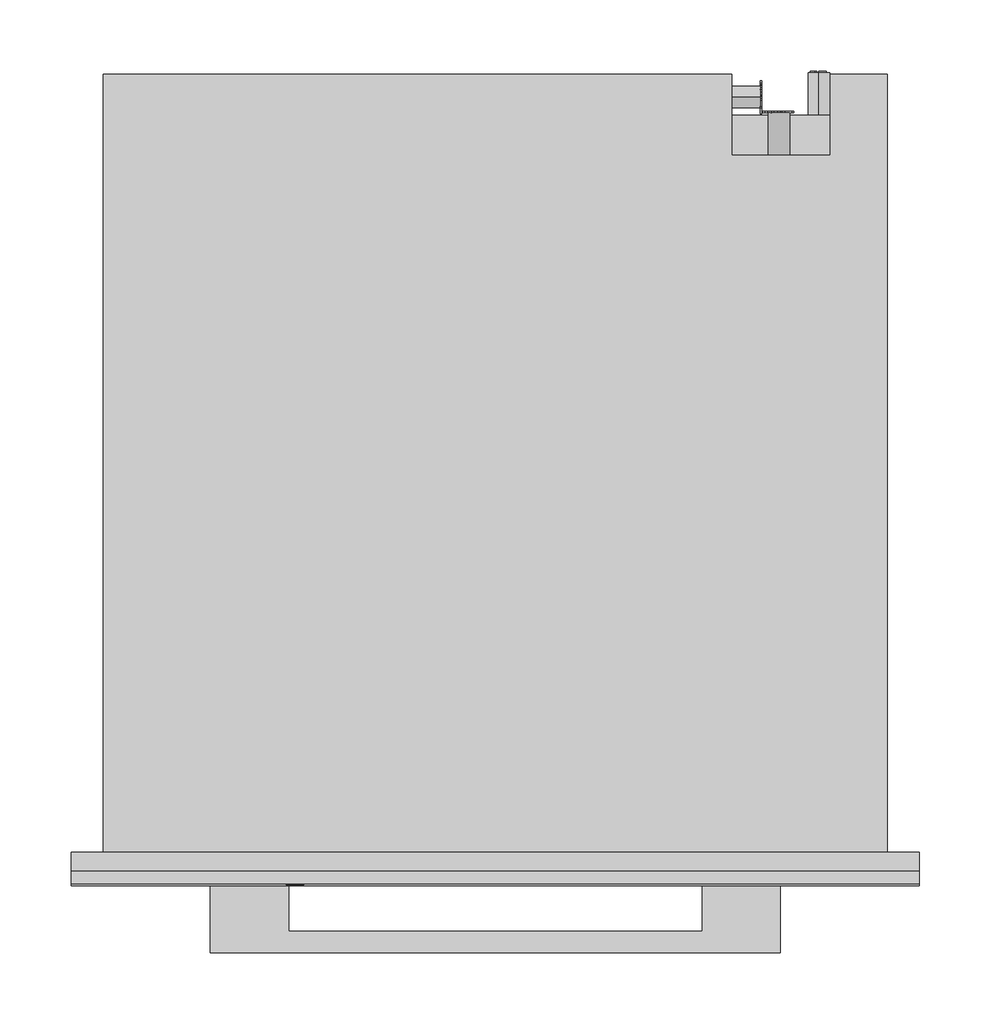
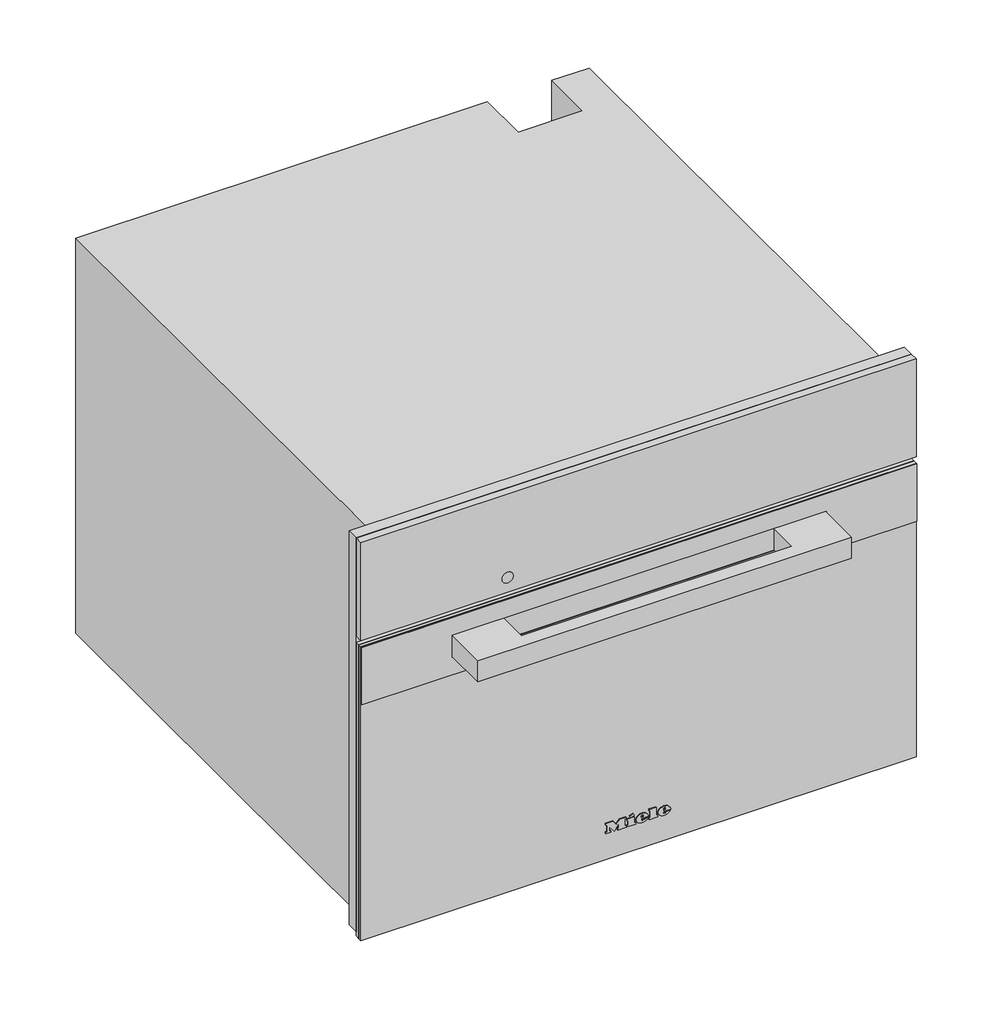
# Not in any storey: 1 proxy.
"""IFC4 building model written with IfcOpenShell, lengths in millimetres."""

import ifcopenshell
import ifcopenshell.guid

model = None  # the IFC model being written
_history = None  # IfcOwnerHistory: only IFC2X3 demands one
_inside = {}  # id of a spatial element -> (the spatial element, [elements in it])
_under = {}  # id of a project, library or spatial element -> (it, [spatial elements below it])
_declared = {}  # id of a project -> (the project, [libraries it declares])
_typed = {}  # id of a type object -> (the type object, [elements of that type])
_made_of = {}  # id of a material, layer set ... -> (it, [elements and type objects made of it])


def new_model(schema):
    """Start an empty IFC model of exactly this schema.

    Asked for "IFC4X3", IfcOpenShell would pick the latest addendum, in which some entities
    have other attributes; the version numbers below select the first issue.
    IFC2X3 requires an IfcOwnerHistory on every rooted entity: one is made here for all.
    """
    global model, _history
    if schema == "IFC4X3":
        model = ifcopenshell.file(schema_version=(4, 3, 0, 0))
    else:
        model = ifcopenshell.file(schema=schema)
    _inside.clear()
    _under.clear()
    _declared.clear()
    _typed.clear()
    _made_of.clear()
    _history = None
    if model.schema == "IFC2X3":
        org = make("IfcOrganization", Name="unknown")
        user = make(
            "IfcPersonAndOrganization",
            ThePerson=make("IfcPerson", FamilyName="unknown"),
            TheOrganization=org,
        )
        app = make(
            "IfcApplication",
            ApplicationDeveloper=org,
            Version="unknown",
            ApplicationFullName="unknown",
            ApplicationIdentifier="unknown",
        )
        _history = make(
            "IfcOwnerHistory",
            OwningUser=user,
            OwningApplication=app,
            ChangeAction="ADDED",
            CreationDate=0,
        )
    return model


def make(cls, **values):
    """One entity of the class cls with the attributes given. An attribute that is None is left unset."""
    return model.create_entity(
        cls, **{name: value for name, value in values.items() if value is not None}
    )


def rooted(cls, **values):
    """An entity with a GlobalId (a new one), such as an element, a storey or a relation."""
    return make(cls, GlobalId=ifcopenshell.guid.new(), OwnerHistory=_history, **values)


def si_unit(unit_type, name, prefix=None):
    """IfcSIUnit, for example si_unit("LENGTHUNIT", "METRE", prefix="MILLI")."""
    return make("IfcSIUnit", UnitType=unit_type, Prefix=prefix, Name=name)


def assignment(units):
    """IfcUnitAssignment: the units of a project."""
    return None if units is None else make("IfcUnitAssignment", Units=units)


def point(xyz):
    """IfcCartesianPoint."""
    return None if xyz is None else make("IfcCartesianPoint", Coordinates=xyz)


def direction(xyz):
    """IfcDirection."""
    return None if xyz is None else make("IfcDirection", DirectionRatios=xyz)


def frame(location, z_axis=None, x_axis=None):
    """IfcAxis2Placement3D, a coordinate frame: its origin and axes. An axis left out is left unset."""
    return make(
        "IfcAxis2Placement3D",
        Location=point(location),
        Axis=direction(z_axis),
        RefDirection=direction(x_axis),
    )


def frame_2d(location, x_axis=None):
    """IfcAxis2Placement2D, a coordinate frame in the plane: its origin and x axis."""
    return make(
        "IfcAxis2Placement2D", Location=point(location), RefDirection=direction(x_axis)
    )


def origin():
    """The frame at (0, 0, 0) with its axes left unset."""
    return frame((0.0, 0.0, 0.0))


def place(relative_to, where):
    """IfcLocalPlacement: puts the frame where relative to a parent placement (None: the world)."""
    return make(
        "IfcLocalPlacement", PlacementRelTo=relative_to, RelativePlacement=where
    )


def context(
    kind, dimensions, precision=None, world=None, true_north=None, identifier=None
):
    """IfcGeometricRepresentationContext, for example the 3D "Model" context."""
    return make(
        "IfcGeometricRepresentationContext",
        ContextIdentifier=identifier,
        ContextType=kind,
        CoordinateSpaceDimension=dimensions,
        Precision=precision,
        WorldCoordinateSystem=world,
        TrueNorth=true_north,
    )


def project(units=None, contexts=None):
    """IfcProject with its units and contexts."""
    return rooted(
        "IfcProject",
        Name="project",
        RepresentationContexts=contexts,
        UnitsInContext=assignment(units),
    )


def spatial(cls, under=None, at=None, **own):
    """A site, building, storey or space (cls), placed at a placement, below another one or the project."""
    s = rooted(cls, ObjectPlacement=at, **own)
    if under is not None:
        _under.setdefault(under.id(), (under, []))[1].append(s)
    return s


def polyline(points):
    """IfcPolyline through the points."""
    return make("IfcPolyline", Points=[point(p) for p in points])


def circle_curve(where, radius):
    """IfcCircle in the frame where."""
    return make("IfcCircle", Position=where, Radius=radius)


def ellipse_curve(where, semi_axis1, semi_axis2):
    """IfcEllipse in the frame where."""
    return make(
        "IfcEllipse", Position=where, SemiAxis1=semi_axis1, SemiAxis2=semi_axis2
    )


def trimmed(basis, trim1, trim2, sense, master):
    """IfcTrimmedCurve: the piece of a basis curve between two trims."""
    return make(
        "IfcTrimmedCurve",
        BasisCurve=basis,
        Trim1=trim1,
        Trim2=trim2,
        SenseAgreement=sense,
        MasterRepresentation=master,
    )


def segment(curve, same_sense, transition):
    """IfcCompositeCurveSegment."""
    return make(
        "IfcCompositeCurveSegment",
        Transition=transition,
        SameSense=same_sense,
        ParentCurve=curve,
    )


def composite_curve(segments, self_intersect=None):
    """IfcCompositeCurve: segments joined end to end."""
    return make("IfcCompositeCurve", Segments=segments, SelfIntersect=self_intersect)


def outline(outer, holes=None, kind="AREA"):
    """IfcArbitraryClosedProfileDef: a profile drawn as a closed curve; with holes, ...WithVoids."""
    if holes is None:
        return make("IfcArbitraryClosedProfileDef", ProfileType=kind, OuterCurve=outer)
    return make(
        "IfcArbitraryProfileDefWithVoids",
        ProfileType=kind,
        OuterCurve=outer,
        InnerCurves=holes,
    )


def extrude(swept, where, along, depth):
    """IfcExtrudedAreaSolid: the profile swept, set in the frame where, extruded along a direction by depth."""
    return make(
        "IfcExtrudedAreaSolid",
        SweptArea=swept,
        Position=where,
        ExtrudedDirection=direction(along),
        Depth=depth,
    )


def faces_of(points, faces, orient=None, outer=None):
    """IfcFace entities. A face is a list of loops; a loop is a list of indices into points, from 0.

    orient and outer hold one flag for each loop. By default every Orientation is true, the
    first loop of a face is its IfcFaceOuterBound and the others are IfcFaceBound.
    """
    made = []
    for i, loops in enumerate(faces):
        bounds = []
        for j, loop in enumerate(loops):
            is_outer = j == 0 if outer is None else outer[i][j]
            bounds.append(
                make(
                    "IfcFaceOuterBound" if is_outer else "IfcFaceBound",
                    Bound=make("IfcPolyLoop", Polygon=[points[k] for k in loop]),
                    Orientation=True if orient is None else orient[i][j],
                )
            )
        made.append(make("IfcFace", Bounds=bounds))
    return made


def faceted_brep(points, faces, orient=None, outer=None, voids=None):
    """IfcFacetedBrep: a solid bounded by flat faces; with voids (closed shells), ...WithVoids."""
    shared = [point(p) for p in points]
    hull = make("IfcClosedShell", CfsFaces=faces_of(shared, faces, orient, outer))
    if voids is None:
        return make("IfcFacetedBrep", Outer=hull)
    return make(
        "IfcFacetedBrepWithVoids",
        Outer=hull,
        Voids=[
            make(cls, CfsFaces=faces_of(shared, fs, o, b)) for cls, fs, o, b in voids
        ],
    )


def shape(context_of_items, identifier, shape_type, items):
    """IfcShapeRepresentation: the items that make up one representation, for example the "Body"."""
    return make(
        "IfcShapeRepresentation",
        ContextOfItems=context_of_items,
        RepresentationIdentifier=identifier,
        RepresentationType=shape_type,
        Items=items,
    )


def source(mapping_origin, context_of_items, identifier, shape_type, items):
    """IfcRepresentationMap: a shape defined once, which mapped items show again and again."""
    return make(
        "IfcRepresentationMap",
        MappingOrigin=mapping_origin,
        MappedRepresentation=shape(context_of_items, identifier, shape_type, items),
    )


def transform(
    local_origin,
    x_axis=None,
    y_axis=None,
    z_axis=None,
    scale=None,
    scale2=None,
    scale3=None,
    uniform=True,
):
    """IfcCartesianTransformationOperator3D, or its non-uniform kind. x_axis, y_axis, z_axis: its Axis1, 2, 3."""
    if uniform:
        return make(
            "IfcCartesianTransformationOperator3D",
            Axis1=direction(x_axis),
            Axis2=direction(y_axis),
            LocalOrigin=point(local_origin),
            Scale=scale,
            Axis3=direction(z_axis),
        )
    return make(
        "IfcCartesianTransformationOperator3DnonUniform",
        Axis1=direction(x_axis),
        Axis2=direction(y_axis),
        LocalOrigin=point(local_origin),
        Scale=scale,
        Axis3=direction(z_axis),
        Scale2=scale2,
        Scale3=scale3,
    )


def mapped(mapping_source, mapping_target):
    """IfcMappedItem: shows the shape of a source again, moved by a transform."""
    return make(
        "IfcMappedItem", MappingSource=mapping_source, MappingTarget=mapping_target
    )


def made_of(thing, what):
    """Note that an element or type object is made of a material, layer set ...; save() writes the relation."""
    if what is not None:
        _made_of.setdefault(what.id(), (what, []))[1].append(thing)
    return thing


def element(
    cls,
    number,
    at=None,
    inside=None,
    cuts=None,
    type_object=None,
    material=None,
    context=None,
    identifier="Body",
    shape_type=None,
    held_by="IfcProductDefinitionShape",
    body=None,
    shapes=None,
    **own,
):
    """One element of the class cls, such as IfcWall. Its Tag is "e" and its number.

    at: its placement. inside: the storey or other place that contains it. cuts: it is an
    opening in that element (IfcRelVoidsElement). A single representation is given by context,
    identifier, shape_type and body (its items); several are given by shapes. held_by: the class
    of the entity that holds the representations. save() writes the other relations.
    """
    e = rooted(cls, Tag="e%d" % number, ObjectPlacement=at, **own)
    if body is not None:
        shapes = [shape(context, identifier, shape_type, body)]
    if shapes is not None:
        e.Representation = make(held_by, Representations=shapes)
    if inside is not None:
        _inside.setdefault(inside.id(), (inside, []))[1].append(e)
    if cuts is not None:
        rooted(
            "IfcRelVoidsElement", RelatingBuildingElement=cuts, RelatedOpeningElement=e
        )
    if type_object is not None:
        _typed.setdefault(type_object.id(), (type_object, []))[1].append(e)
    return made_of(e, material)


def aggregate(whole, parts):
    """IfcRelAggregates: a whole, such as a stair, and the parts it consists of."""
    return rooted("IfcRelAggregates", RelatingObject=whole, RelatedObjects=parts)


def save(model, path):
    """Write the relations noted so far, then the file.

    IfcRelAggregates (storeys below a building ...), IfcRelContainedInSpatialStructure (elements
    in a storey), IfcRelDefinesByType, IfcRelAssociatesMaterial and IfcRelDeclares: one each for
    every whole, place, type object, material and project.
    """
    for whole, parts in _under.values():
        aggregate(whole, parts)
    for where, things in _inside.values():
        rooted(
            "IfcRelContainedInSpatialStructure",
            RelatedElements=things,
            RelatingStructure=where,
        )
    for kind, things in _typed.values():
        rooted("IfcRelDefinesByType", RelatedObjects=things, RelatingType=kind)
    for what, things in _made_of.values():
        rooted("IfcRelAssociatesMaterial", RelatedObjects=things, RelatingMaterial=what)
    for by, libraries in _declared.values():
        rooted("IfcRelDeclares", RelatingContext=by, RelatedDefinitions=libraries)
    model.write(path)


def plane_surface(at):
    """IfcPlane: the flat surface through the origin of the frame at, square to its z axis."""
    return make("IfcPlane", Position=at)


def cylinder_surface(at, radius):
    """IfcCylindricalSurface: all points at the distance radius from the z axis of the frame at."""
    return make("IfcCylindricalSurface", Position=at, Radius=radius)


def revolved_surface(curve, axis_point, axis_direction):
    """IfcSurfaceOfRevolution: the curve turned about the line through axis_point along axis_direction."""
    return make(
        "IfcSurfaceOfRevolution",
        SweptCurve=make("IfcArbitraryOpenProfileDef", ProfileType="CURVE", Curve=curve),
        AxisPosition=make("IfcAxis1Placement", Location=point(axis_point), Axis=direction(axis_direction)),
    )


def extruded_surface(curve, direction_of_extrusion, depth):
    """IfcSurfaceOfLinearExtrusion: the curve pushed along a direction by depth."""
    return make(
        "IfcSurfaceOfLinearExtrusion",
        SweptCurve=make("IfcArbitraryOpenProfileDef", ProfileType="CURVE", Curve=curve),
        ExtrudedDirection=direction(direction_of_extrusion),
        Depth=depth,
    )


def advanced_brep(points, edges, surfaces, faces):
    """IfcAdvancedBrep: a solid bounded by faces that lie on surfaces and meet in shared edges.

    An edge is (start, end): straight between two places in points (the first is 0);
    or (start, end, curve); or (start, end, curve, False) where it runs against its curve.
    A face is (place in surfaces, loops), or (place, loops, False) where it looks against
    its surface's normal. A loop lists edges by number (the first is 1), with a minus sign
    where the edge is run from its end to its start. The first loop is the outer one.
    """
    corners = [point(p) for p in points]
    vertices = [make("IfcVertexPoint", VertexGeometry=c) for c in corners]
    made = []
    for start, end, *more in edges:
        made.append(
            make(
                "IfcEdgeCurve",
                EdgeStart=vertices[start],
                EdgeEnd=vertices[end],
                EdgeGeometry=more[0] if more else make("IfcPolyline", Points=[corners[start], corners[end]]),
                SameSense=more[1] if len(more) > 1 else True,
            )
        )
    hull = []
    for where, loops, *sense in faces:
        bounds = []
        for j, loop in enumerate(loops):
            ring = [make("IfcOrientedEdge", EdgeElement=made[abs(k) - 1], Orientation=k > 0) for k in loop]
            bounds.append(
                make(
                    "IfcFaceOuterBound" if j == 0 else "IfcFaceBound",
                    Bound=make("IfcEdgeLoop", EdgeList=ring),
                    Orientation=True,
                )
            )
        hull.append(make("IfcAdvancedFace", Bounds=bounds, FaceSurface=surfaces[where], SameSense=sense[0] if sense else True))
    return make("IfcAdvancedBrep", Outer=make("IfcClosedShell", CfsFaces=hull))


def specialty_equipment_19b5fff7(model_context):
    return source(origin(), model_context, "Body", "SolidModel", [
        extrude(outline(polyline([(455.0, 297.5), (455.0, -297.5), (9.0, -297.5), (9.0, 297.5), (455.0, 297.5)]), holes=[polyline([(344.0, -272.5), (344.0, 272.5), (27.0, 272.5), (27.0, -272.5), (344.0, -272.5)])]), frame((0.0, -13.0, 0.0), z_axis=(0.0, 1.0, 0.0), x_axis=(0.0, 0.0, 1.0)), (0.0, 0.0, 1.0), 13.0),
        extrude(outline(polyline([(383.0, 196.9217896), (383.0, 198.4267862), (393.0435673, 201.1942402), (393.0435673, 199.9014806), (384.4295103, 197.7797951), (393.0470645, 195.3087512), (393.0470645, 193.4373937), (384.4121052, 190.9191482), (393.0472266, 188.8443938), (393.0472266, 187.5376524), (383.0, 190.2769667), (383.0, 191.6257455), (391.8347238, 194.3884733), (383.0, 196.9217896)])), frame((0.0, 519.0, 0.0), z_axis=(0.0, 1.0, 0.0), x_axis=(0.0, 0.0, 1.0)), (0.0, 0.0, 1.0), 1.0),
        extrude(outline(polyline([(393.0468463, 209.521488), (393.0468463, 208.2566067), (388.129594, 208.2566067), (393.0474898, 203.1074328), (393.0474898, 201.3597489), (388.9313111, 205.6695027), (383.0, 201.1858157), (383.0, 202.7358731), (388.0700777, 206.5685235), (386.4282746, 208.2823622), (383.0, 208.2823622), (383.0, 209.521488), (393.0468463, 209.521488)])), frame((0.0, 519.0, 0.0), z_axis=(0.0, 1.0, 0.0), x_axis=(0.0, 0.0, 1.0)), (0.0, 0.0, 1.0), 1.0),
        extrude(outline(polyline([(518.3136153, 20.0), (522.323529, 30.045631), (523.3928394, 30.045631), (527.4027531, 20.0), (526.0759254, 20.0), (524.925681, 23.1392597), (520.7882348, 23.1392597), (519.640443, 20.0), (518.3136153, 20.0)]), holes=[polyline([(521.2493136, 24.3949636), (524.4670548, 24.3949636), (523.5620651, 26.864678), (522.8581842, 28.7899271), (522.2327848, 27.0805021), (521.2493136, 24.3949636)])]), frame((186.0, 0.0, 0.0), z_axis=(1.0, 0.0, 0.0), x_axis=(0.0, 1.0, 0.0)), (0.0, 0.0, 1.0), 1.0),
        extrude(outline(polyline([(530.5420128, 20.0), (527.8025182, 30.045631), (529.0974628, 30.045631), (530.6867131, 23.4433755), (531.1772224, 21.4053092), (531.7020674, 23.207931), (533.6935352, 30.045631), (535.5599232, 30.045631), (537.0069257, 25.0890343), (538.0835937, 21.4053092), (538.5593878, 23.3845144), (540.1633533, 30.045631), (541.4582979, 30.045631), (538.7163507, 20.0), (537.3748077, 20.0), (534.9664069, 27.7500474), (534.630408, 28.8316204), (534.2527159, 27.5293182), (532.0576866, 20.0), (530.5420128, 20.0)])), frame((186.0, 0.0, 0.0), z_axis=(1.0, 0.0, 0.0), x_axis=(0.0, 1.0, 0.0)), (0.0, 0.0, 1.0), 1.0),
        advanced_brep(
        [(227.0, 547.0, 255.5), (227.0, 547.0, 240.5), (221.4098301, 547.0, 243.0), (225.5, 547.0, 243.0), (225.5, 547.0, 253.0), (224.4955303, 547.0, 253.0), (224.4955303, 547.0, 244.0), (221.0315043, 547.0, 244.0), (221.0315043, 547.0, 243.4582978), (232.0, 547.0, 243.0), (232.0, 547.0, 253.0), (227.0, 547.0, 253.0), (227.0, 547.0, 252.0), (231.0, 547.0, 252.0), (231.0, 547.0, 248.5), (228.0, 547.0, 248.5), (228.0, 547.0, 247.5), (231.0, 547.0, 247.5), (231.0, 547.0, 244.0), (227.0, 547.0, 244.0), (227.0, 547.0, 243.0), (227.0, 517.0, 240.5), (227.0, 517.0, 255.5), (232.0, 548.0, 253.0), (232.0, 548.0, 243.0), (227.0, 548.0, 243.0), (227.0, 548.0, 244.0), (231.0, 548.0, 244.0), (231.0, 548.0, 247.5), (228.0, 548.0, 247.5), (228.0, 548.0, 248.5), (231.0, 548.0, 248.5), (231.0, 548.0, 252.0), (227.0, 548.0, 252.0), (227.0, 548.0, 253.0), (225.5, 548.0, 243.0), (221.0315043, 548.0, 243.0), (221.0315043, 548.0, 244.0), (224.4955303, 548.0, 244.0), (224.4955303, 548.0, 253.0), (225.5, 548.0, 253.0), (221.0315043, 547.0, 243.0)],
        [
            (0, 1, circle_curve(frame((227.0, 547.0, 248.0), z_axis=(0.0, 1.0, 0.0), x_axis=(0.0, 0.0, 1.0)), 7.5)),
            (1, 2, circle_curve(frame((227.0, 547.0, 248.0), z_axis=(0.0, 1.0, 0.0), x_axis=(0.0, 0.0, 1.0)), 7.5)),
            (2, 3),
            (3, 4),
            (4, 5),
            (5, 6),
            (6, 7),
            (7, 8),
            (8, 0, circle_curve(frame((227.0, 547.0, 248.0), z_axis=(0.0, 1.0, 0.0), x_axis=(0.0, 0.0, 1.0)), 7.5)),
            (9, 10),
            (10, 11),
            (11, 12),
            (12, 13),
            (13, 14),
            (14, 15),
            (15, 16),
            (16, 17),
            (17, 18),
            (18, 19),
            (19, 20),
            (20, 9),
            (21, 22, circle_curve(frame((227.0, 517.0, 248.0), z_axis=(0.0, -1.0, 0.0), x_axis=(0.0, 0.0, 1.0)), 7.5)),
            (22, 21, circle_curve(frame((227.0, 517.0, 248.0), z_axis=(0.0, -1.0, 0.0), x_axis=(0.0, 0.0, 1.0)), 7.5)),
            (0, 22),
            (21, 1),
            (8, 2, circle_curve(frame((227.0, 547.0, 248.0), z_axis=(0.0, -1.0, 0.0), x_axis=(0.0, 0.0, 1.0)), 7.5)),
            (23, 24),
            (24, 25),
            (25, 26),
            (26, 27),
            (27, 28),
            (28, 29),
            (29, 30),
            (30, 31),
            (31, 32),
            (32, 33),
            (33, 34),
            (34, 23),
            (35, 36),
            (36, 37),
            (37, 38),
            (38, 39),
            (39, 40),
            (40, 35),
            (8, 41),
            (41, 2),
            (23, 10),
            (9, 24),
            (20, 25),
            (19, 26),
            (18, 27),
            (17, 28),
            (16, 29),
            (15, 30),
            (14, 31),
            (13, 32),
            (12, 33),
            (11, 34),
            (35, 3),
            (41, 36),
            (7, 37),
            (6, 38),
            (5, 39),
            (4, 40),
        ],
        [
            plane_surface(frame((227.0, 547.0, 255.5), z_axis=(0.0, 1.0, 0.0), x_axis=(1.0, 0.0, 0.0))),
            plane_surface(frame((227.0, 517.0, 255.5), z_axis=(0.0, -1.0, 0.0), x_axis=(-1.0, 0.0, 0.0))),
            cylinder_surface(frame((227.0, 547.0, 248.0), z_axis=(0.0, -1.0, 0.0), x_axis=(0.0, 0.0, 1.0)), 7.5),
            plane_surface(frame((232.0, 548.0, 253.0), z_axis=(0.0, 1.0, 0.0), x_axis=(0.0, 0.0, -1.0))),
            plane_surface(frame((232.0, 547.0, 253.0), z_axis=(0.0, -1.0, 0.0), x_axis=(0.0, 0.0, 1.0))),
            plane_surface(frame((232.0, 548.0, 253.0), z_axis=(1.0, 0.0, 0.0), x_axis=(0.0, -1.0, 0.0))),
            plane_surface(frame((232.0, 548.0, 243.0), z_axis=(0.0, 0.0, -1.0), x_axis=(0.0, -1.0, 0.0))),
            plane_surface(frame((227.0, 548.0, 243.0), z_axis=(-1.0, 0.0, 0.0), x_axis=(0.0, -1.0, 0.0))),
            plane_surface(frame((227.0, 548.0, 244.0), z_axis=(0.0, 0.0, 1.0), x_axis=(0.0, -1.0, 0.0))),
            plane_surface(frame((231.0, 548.0, 244.0), z_axis=(-1.0, 0.0, 0.0), x_axis=(0.0, -1.0, 0.0))),
            plane_surface(frame((231.0, 548.0, 247.5), z_axis=(0.0, 0.0, -1.0), x_axis=(0.0, -1.0, 0.0))),
            plane_surface(frame((228.0, 548.0, 247.5), z_axis=(-1.0, 0.0, 0.0), x_axis=(0.0, -1.0, 0.0))),
            plane_surface(frame((228.0, 548.0, 248.5), z_axis=(0.0, 0.0, 1.0), x_axis=(0.0, -1.0, 0.0))),
            plane_surface(frame((231.0, 548.0, 248.5), z_axis=(-1.0, 0.0, 0.0), x_axis=(0.0, -1.0, 0.0))),
            plane_surface(frame((231.0, 548.0, 252.0), z_axis=(0.0, 0.0, -1.0), x_axis=(0.0, -1.0, 0.0))),
            plane_surface(frame((227.0, 548.0, 252.0), z_axis=(-1.0, 0.0, 0.0), x_axis=(0.0, -1.0, 0.0))),
            plane_surface(frame((227.0, 548.0, 253.0), z_axis=(0.0, 0.0, 1.0), x_axis=(0.0, -1.0, 0.0))),
            plane_surface(frame((225.5, 548.0, 243.0), z_axis=(0.0, 0.0, -1.0), x_axis=(0.0, -1.0, 0.0))),
            plane_surface(frame((221.0315043, 548.0, 243.0), z_axis=(-1.0, 0.0, 0.0), x_axis=(0.0, -1.0, 0.0))),
            plane_surface(frame((221.0315043, 548.0, 244.0), z_axis=(0.0, 0.0, 1.0), x_axis=(0.0, -1.0, 0.0))),
            plane_surface(frame((224.4955303, 548.0, 244.0), z_axis=(-1.0, 0.0, 0.0), x_axis=(0.0, -1.0, 0.0))),
            plane_surface(frame((224.4955303, 548.0, 253.0), z_axis=(0.0, 0.0, 1.0), x_axis=(0.0, -1.0, 0.0))),
            plane_surface(frame((225.5, 548.0, 253.0), z_axis=(1.0, 0.0, 0.0), x_axis=(0.0, -1.0, 0.0))),
        ],
        [
            (0, [[1, 2, 3, 4, 5, 6, 7, 8, 9], [10, 11, 12, 13, 14, 15, 16, 17, 18, 19, 20, 21]]),
            (1, [[22, 23]]),
            (2, [[-1, 24, -22, 25]]),
            (2, [[-23, -24, -9, 26, -2, -25]]),
            (3, [[27, 28, 29, 30, 31, 32, 33, 34, 35, 36, 37, 38]]),
            (3, [[39, 40, 41, 42, 43, 44]]),
            (4, [[45, 46, -26]]),
            (5, [[-27, 47, -10, 48]]),
            (6, [[-28, -48, -21, 49]]),
            (7, [[-29, -49, -20, 50]]),
            (8, [[-30, -50, -19, 51]]),
            (9, [[-31, -51, -18, 52]]),
            (10, [[-32, -52, -17, 53]]),
            (11, [[-33, -53, -16, 54]]),
            (12, [[-34, -54, -15, 55]]),
            (13, [[-35, -55, -14, 56]]),
            (14, [[-36, -56, -13, 57]]),
            (15, [[-37, -57, -12, 58]]),
            (16, [[-38, -58, -11, -47]]),
            (17, [[-39, 59, -3, -46, 60]]),
            (18, [[-40, -60, -45, -8, 61]]),
            (19, [[-41, -61, -7, 62]]),
            (20, [[-42, -62, -6, 63]]),
            (21, [[-43, -63, -5, 64]]),
            (22, [[-44, -64, -4, -59]]),
        ],
    ),
        extrude(outline(composite_curve([segment(trimmed(circle_curve(frame_2d((388.0, 199.0)), 7.5), [point((388.0, 206.5))], [point((388.0, 191.5))], False, "CARTESIAN"), True, "CONTINUOUS"), segment(trimmed(circle_curve(frame_2d((388.0, 199.0)), 7.5), [point((388.0, 191.5))], [point((388.0, 206.5))], False, "CARTESIAN"), True, "CONTINUOUS")], self_intersect=False)), frame((0.0, 489.0, 0.0), z_axis=(0.0, 1.0, 0.0), x_axis=(0.0, 0.0, 1.0)), (0.0, 0.0, 1.0), 30.0),
        extrude(outline(composite_curve([segment(trimmed(circle_curve(frame_2d((530.0, 25.0)), 7.5), [point((530.0, 17.5))], [point((530.0, 32.5))], False, "CARTESIAN"), True, "CONTINUOUS"), segment(trimmed(circle_curve(frame_2d((530.0, 25.0)), 7.5), [point((530.0, 32.5))], [point((530.0, 17.5))], False, "CARTESIAN"), True, "CONTINUOUS")], self_intersect=False)), frame((166.0, 0.0, 0.0), z_axis=(1.0, 0.0, 0.0), x_axis=(0.0, 1.0, 0.0)), (0.0, 0.0, 1.0), 20.0),
        faceted_brep([(-275.0, 546.0, 0.0), (-275.0, 546.0, 448.0), (166.0, 546.0, 448.0), (166.0, 546.0, 0.0), (235.0, 546.0, 448.0), (275.0, 546.0, 448.0), (275.0, 546.0, 338.0), (235.0, 546.0, 338.0), (275.0, 0.0, 448.0), (-275.0, 0.0, 448.0), (-275.0, 0.0, 0.0), (275.0, 0.0, 0.0), (-272.5, 0.0, 344.0), (272.5, 0.0, 344.0), (272.5, 0.0, 27.0), (-272.5, 0.0, 27.0), (235.0, 489.0, 448.0), (166.0, 489.0, 448.0), (166.0, 517.0, 0.0), (275.0, 517.0, 0.0), (275.0, 517.0, 338.0), (272.5, 17.0, 344.0), (-272.5, 17.0, 344.0), (-272.5, 17.0, 27.0), (272.5, 17.0, 27.0), (231.0, 17.0, 307.0), (231.0, 17.0, 65.0), (-231.0, 17.0, 65.0), (-231.0, 17.0, 307.0), (231.0, 411.0, 307.0), (-231.0, 411.0, 307.0), (-231.0, 411.0, 65.0), (231.0, 411.0, 65.0), (235.0, 489.0, 337.0), (166.0, 489.0, 337.0), (166.0, 517.0, 337.0), (235.0, 517.0, 337.0), (235.0, 517.0, 338.0)], [[[0, 1, 2, 3]], [[4, 5, 6, 7]], [[8, 9, 10, 11], [12, 13, 14, 15]], [[9, 8, 5, 4, 16, 17, 2, 1]], [[1, 0, 10, 9]], [[11, 10, 0, 3, 18, 19]], [[8, 11, 19, 20, 6, 5]], [[21, 22, 23, 24], [25, 26, 27, 28]], [[22, 21, 13, 12]], [[23, 22, 12, 15]], [[24, 23, 15, 14]], [[21, 24, 14, 13]], [[29, 30, 31, 32]], [[29, 32, 26, 25]], [[32, 31, 27, 26]], [[31, 30, 28, 27]], [[30, 29, 25, 28]], [[16, 33, 34, 17]], [[17, 34, 35, 18, 3, 2]], [[34, 33, 36, 35]], [[33, 16, 4, 7, 37, 36]], [[37, 20, 19, 18, 35, 36]], [[20, 37, 7, 6]]]),
        advanced_brep(
        [(26.2998, -23.0, 36.7018), (26.2998, -23.0, 37.8532), (33.9264, -23.0, 37.8532), (20.6568, -23.0, 37.8532), (23.7918, -23.0, 34.0), (33.7326, -23.0, 36.7018), (30.2898, -23.0, 36.7018), (27.5766, -23.0, 35.425), (26.2998, -23.0, 39.3124), (26.2998, -23.0, 40.555), (28.2492, -23.0, 40.555), (28.2492, -23.0, 39.3124), (26.2998, -22.0, 36.7018), (27.5766, -22.0, 35.425), (30.2898, -22.0, 36.7018), (33.7326, -22.0, 36.7018), (23.7918, -22.0, 34.0), (20.6568, -22.0, 37.8532), (33.9264, -22.0, 37.8532), (26.2998, -22.0, 37.8532), (26.2998, -22.0, 39.3124), (28.2492, -22.0, 39.3124), (28.2492, -22.0, 40.555), (26.2998, -22.0, 40.555)],
        [
            (0, 1),
            (1, 2),
            (2, 3, ellipse_curve(frame((27.2916, -23.0, 37.8532), z_axis=(0.0, -1.0, 0.0), x_axis=(-1.0, 0.0, 0.0)), 6.6348, 5.4834)),
            (3, 4, circle_curve(frame((25.0686622, -23.0, 38.2408), z_axis=(0.0, -1.0, 0.0), x_axis=(0.0, 0.0, -1.0)), 4.4288556)),
            (4, 5, circle_curve(frame((27.1587808, -23.0, 41.2504), z_axis=(0.0, -1.0, 0.0), x_axis=(0.0, 0.0, -1.0)), 7.9940516)),
            (5, 6),
            (6, 7, circle_curve(frame((28.1338588, -23.0, 37.762), z_axis=(0.0, 1.0, 0.0), x_axis=(0.0, 0.0, -1.0)), 2.4025208)),
            (7, 0, circle_curve(frame((27.5766, -23.0, 36.7018), z_axis=(0.0, 1.0, 0.0), x_axis=(0.0, 0.0, -1.0)), 1.2768)),
            (8, 9),
            (9, 10, circle_curve(frame((27.2745, -23.0, 40.555), z_axis=(0.0, 1.0, 0.0), x_axis=(0.0, 0.0, -1.0)), 0.9747)),
            (10, 11),
            (11, 8),
            (12, 13, circle_curve(frame((27.5766, -22.0, 36.7018), z_axis=(0.0, -1.0, 0.0), x_axis=(0.0, 0.0, -1.0)), 1.2768)),
            (13, 14, circle_curve(frame((28.1338588, -22.0, 37.762), z_axis=(0.0, -1.0, 0.0), x_axis=(0.0, 0.0, -1.0)), 2.4025208)),
            (14, 15),
            (15, 16, circle_curve(frame((27.1587808, -22.0, 41.2504), z_axis=(0.0, 1.0, 0.0), x_axis=(0.0, 0.0, -1.0)), 7.9940516)),
            (16, 17, circle_curve(frame((25.0686622, -22.0, 38.2408), z_axis=(0.0, 1.0, 0.0), x_axis=(0.0, 0.0, -1.0)), 4.4288556)),
            (17, 18, ellipse_curve(frame((27.2916, -22.0, 37.8532), z_axis=(0.0, 1.0, 0.0), x_axis=(-1.0, 0.0, 0.0)), 6.6348, 5.4834)),
            (18, 19),
            (19, 12),
            (20, 21),
            (21, 22),
            (22, 23, circle_curve(frame((27.2745, -22.0, 40.555), z_axis=(0.0, -1.0, 0.0), x_axis=(0.0, 0.0, -1.0)), 0.9747)),
            (23, 20),
            (0, 12),
            (19, 1),
            (18, 2),
            (5, 15),
            (14, 6),
            (17, 3),
            (13, 7),
            (16, 4),
            (8, 20),
            (23, 9),
            (22, 10),
            (21, 11),
        ],
        [
            plane_surface(frame((26.2998, -23.0, 37.8532), z_axis=(0.0, -1.0, 0.0), x_axis=(0.0, 0.0, 1.0))),
            plane_surface(frame((26.2998, -22.0, 37.8532), z_axis=(0.0, 1.0, 0.0), x_axis=(0.0, 0.0, -1.0))),
            plane_surface(frame((26.2998, -23.0, 36.7018), z_axis=(1.0, 0.0, 0.0), x_axis=(0.0, 1.0, 0.0))),
            plane_surface(frame((26.2998, -23.0, 37.8532), z_axis=(0.0, 0.0, -1.0), x_axis=(0.0, 1.0, 0.0))),
            plane_surface(frame((33.7326, -23.0, 36.7018), z_axis=(0.0, 0.0, 1.0), x_axis=(0.0, 1.0, 0.0))),
            extruded_surface(trimmed(ellipse_curve(frame((27.2916, -21.0, 37.8532), z_axis=(0.0, -1.0, 0.0), x_axis=(-1.0, 0.0, 0.0)), 6.6348, 5.4834), [point((33.9264, -21.0, 37.8532))], [point((20.6568, -21.0, 37.8532))], True, "CARTESIAN"), (0.0, -1.0, 0.0), 1.0),
            revolved_surface(polyline([(28.1338588, -22.0, 35.3594792), (28.1338588, -23.0, 35.3594792)]), (28.1338588, -22.0, 37.762), (0.0, 1.0, 0.0)),
            revolved_surface(polyline([(27.5766, -22.0, 35.425), (27.5766, -23.0, 35.425)]), (27.5766, -22.0, 36.7018), (0.0, 1.0, 0.0)),
            cylinder_surface(frame((25.0686622, -22.0, 38.2408), z_axis=(0.0, -1.0, 0.0), x_axis=(0.0, 0.0, -1.0)), 4.4288556),
            cylinder_surface(frame((27.1587808, -22.0, 41.2504), z_axis=(0.0, -1.0, 0.0), x_axis=(0.0, 0.0, -1.0)), 7.9940516),
            plane_surface(frame((26.2998, -23.0, 39.3124), z_axis=(1.0, 0.0, 0.0), x_axis=(0.0, 1.0, 0.0))),
            revolved_surface(polyline([(27.2745, -22.0, 39.5803), (27.2745, -23.0, 39.5803)]), (27.2745, -22.0, 40.555), (0.0, 1.0, 0.0)),
            plane_surface(frame((28.2492, -23.0, 40.555), z_axis=(-1.0, 0.0, 0.0), x_axis=(0.0, 1.0, 0.0))),
            plane_surface(frame((28.2492, -23.0, 39.3124), z_axis=(0.0, 0.0, 1.0), x_axis=(0.0, 1.0, 0.0))),
        ],
        [
            (0, [[1, 2, 3, 4, 5, 6, 7, 8], [9, 10, 11, 12]]),
            (1, [[13, 14, 15, 16, 17, 18, 19, 20], [21, 22, 23, 24]]),
            (2, [[-1, 25, -20, 26]]),
            (3, [[-2, -26, -19, 27]]),
            (4, [[-6, 28, -15, 29]]),
            (5, [[-3, -27, -18, 30]]),
            (6, [[-7, -29, -14, 31]]),
            (7, [[-8, -31, -13, -25]]),
            (8, [[-4, -30, -17, 32]]),
            (9, [[-5, -32, -16, -28]]),
            (10, [[-9, 33, -24, 34]]),
            (11, [[-10, -34, -23, 35]]),
            (12, [[-11, -35, -22, 36]]),
            (13, [[-12, -36, -21, -33]]),
        ],
    ),
        advanced_brep(
        [(2.508, -23.0, 36.7018), (2.508, -23.0, 37.8532), (10.1346, -23.0, 37.8532), (-3.135, -23.0, 37.8532), (0.0, -23.0, 34.0), (9.9408, -23.0, 36.7018), (6.498, -23.0, 36.7018), (3.7848, -23.0, 35.425), (2.508, -23.0, 39.3124), (2.508, -23.0, 40.555), (4.4574, -23.0, 40.555), (4.4574, -23.0, 39.3124), (2.508, -22.0, 36.7018), (3.7848, -22.0, 35.425), (6.498, -22.0, 36.7018), (9.9408, -22.0, 36.7018), (0.0, -22.0, 34.0), (-3.135, -22.0, 37.8532), (10.1346, -22.0, 37.8532), (2.508, -22.0, 37.8532), (2.508, -22.0, 39.3124), (4.4574, -22.0, 39.3124), (4.4574, -22.0, 40.555), (2.508, -22.0, 40.555)],
        [
            (0, 1),
            (1, 2),
            (2, 3, ellipse_curve(frame((3.4998, -23.0, 37.8532), z_axis=(0.0, -1.0, 0.0), x_axis=(-1.0, 0.0, 0.0)), 6.6348, 5.4834)),
            (3, 4, circle_curve(frame((1.2768622, -23.0, 38.2408), z_axis=(0.0, -1.0, 0.0), x_axis=(0.0, 0.0, -1.0)), 4.4288556)),
            (4, 5, circle_curve(frame((3.3669808, -23.0, 41.2504), z_axis=(0.0, -1.0, 0.0), x_axis=(0.0, 0.0, -1.0)), 7.9940516)),
            (5, 6),
            (6, 7, circle_curve(frame((4.3420588, -23.0, 37.762), z_axis=(0.0, 1.0, 0.0), x_axis=(0.0, 0.0, -1.0)), 2.4025208)),
            (7, 0, circle_curve(frame((3.7848, -23.0, 36.7018), z_axis=(0.0, 1.0, 0.0), x_axis=(0.0, 0.0, -1.0)), 1.2768)),
            (8, 9),
            (9, 10, circle_curve(frame((3.4827, -23.0, 40.555), z_axis=(0.0, 1.0, 0.0), x_axis=(0.0, 0.0, -1.0)), 0.9747)),
            (10, 11),
            (11, 8),
            (12, 13, circle_curve(frame((3.7848, -22.0, 36.7018), z_axis=(0.0, -1.0, 0.0), x_axis=(0.0, 0.0, -1.0)), 1.2768)),
            (13, 14, circle_curve(frame((4.3420588, -22.0, 37.762), z_axis=(0.0, -1.0, 0.0), x_axis=(0.0, 0.0, -1.0)), 2.4025208)),
            (14, 15),
            (15, 16, circle_curve(frame((3.3669808, -22.0, 41.2504), z_axis=(0.0, 1.0, 0.0), x_axis=(0.0, 0.0, -1.0)), 7.9940516)),
            (16, 17, circle_curve(frame((1.2768622, -22.0, 38.2408), z_axis=(0.0, 1.0, 0.0), x_axis=(0.0, 0.0, -1.0)), 4.4288556)),
            (17, 18, ellipse_curve(frame((3.4998, -22.0, 37.8532), z_axis=(0.0, 1.0, 0.0), x_axis=(-1.0, 0.0, 0.0)), 6.6348, 5.4834)),
            (18, 19),
            (19, 12),
            (20, 21),
            (21, 22),
            (22, 23, circle_curve(frame((3.4827, -22.0, 40.555), z_axis=(0.0, -1.0, 0.0), x_axis=(0.0, 0.0, -1.0)), 0.9747)),
            (23, 20),
            (0, 12),
            (19, 1),
            (18, 2),
            (5, 15),
            (14, 6),
            (17, 3),
            (13, 7),
            (16, 4),
            (8, 20),
            (23, 9),
            (22, 10),
            (21, 11),
        ],
        [
            plane_surface(frame((2.508, -23.0, 37.8532), z_axis=(0.0, -1.0, 0.0), x_axis=(0.0, 0.0, 1.0))),
            plane_surface(frame((2.508, -22.0, 37.8532), z_axis=(0.0, 1.0, 0.0), x_axis=(0.0, 0.0, -1.0))),
            plane_surface(frame((2.508, -23.0, 36.7018), z_axis=(1.0, 0.0, 0.0), x_axis=(0.0, 1.0, 0.0))),
            plane_surface(frame((2.508, -23.0, 37.8532), z_axis=(0.0, 0.0, -1.0), x_axis=(0.0, 1.0, 0.0))),
            plane_surface(frame((9.9408, -23.0, 36.7018), z_axis=(0.0, 0.0, 1.0), x_axis=(0.0, 1.0, 0.0))),
            extruded_surface(trimmed(ellipse_curve(frame((3.4998, -21.0, 37.8532), z_axis=(0.0, -1.0, 0.0), x_axis=(-1.0, 0.0, 0.0)), 6.6348, 5.4834), [point((10.1346, -21.0, 37.8532))], [point((-3.135, -21.0, 37.8532))], True, "CARTESIAN"), (0.0, -1.0, 0.0), 1.0),
            revolved_surface(polyline([(4.3420588, -22.0, 35.3594792), (4.3420588, -23.0, 35.3594792)]), (4.3420588, -22.0, 37.762), (0.0, 1.0, 0.0)),
            revolved_surface(polyline([(3.7848, -22.0, 35.425), (3.7848, -23.0, 35.425)]), (3.7848, -22.0, 36.7018), (0.0, 1.0, 0.0)),
            cylinder_surface(frame((1.2768622, -22.0, 38.2408), z_axis=(0.0, -1.0, 0.0), x_axis=(0.0, 0.0, -1.0)), 4.4288556),
            cylinder_surface(frame((3.3669808, -22.0, 41.2504), z_axis=(0.0, -1.0, 0.0), x_axis=(0.0, 0.0, -1.0)), 7.9940516),
            plane_surface(frame((2.508, -23.0, 39.3124), z_axis=(1.0, 0.0, 0.0), x_axis=(0.0, 1.0, 0.0))),
            revolved_surface(polyline([(3.4827, -22.0, 39.5803), (3.4827, -23.0, 39.5803)]), (3.4827, -22.0, 40.555), (0.0, 1.0, 0.0)),
            plane_surface(frame((4.4574, -23.0, 40.555), z_axis=(-1.0, 0.0, 0.0), x_axis=(0.0, 1.0, 0.0))),
            plane_surface(frame((4.4574, -23.0, 39.3124), z_axis=(0.0, 0.0, 1.0), x_axis=(0.0, 1.0, 0.0))),
        ],
        [
            (0, [[1, 2, 3, 4, 5, 6, 7, 8], [9, 10, 11, 12]]),
            (1, [[13, 14, 15, 16, 17, 18, 19, 20], [21, 22, 23, 24]]),
            (2, [[-1, 25, -20, 26]]),
            (3, [[-2, -26, -19, 27]]),
            (4, [[-6, 28, -15, 29]]),
            (5, [[-3, -27, -18, 30]]),
            (6, [[-7, -29, -14, 31]]),
            (7, [[-8, -31, -13, -25]]),
            (8, [[-4, -30, -17, 32]]),
            (9, [[-5, -32, -16, -28]]),
            (10, [[-9, 33, -24, 34]]),
            (11, [[-10, -34, -23, 35]]),
            (12, [[-11, -35, -22, 36]]),
            (13, [[-12, -36, -21, -33]]),
        ],
    ),
        extrude(outline(polyline([(44.7274, -9.9522), (42.8806, -9.0858), (44.6818, -5.2212), (46.5286, -6.0762), (44.7274, -9.9522)])), frame((0.0, -23.0, 0.0), z_axis=(0.0, 1.0, 0.0), x_axis=(0.0, 0.0, 1.0)), (0.0, 0.0, 1.0), 1.0),
        extrude(outline(polyline([(42.6298, -12.768), (40.5892, -12.768), (40.5892, -11.4114), (35.9152, -11.4114), (35.9152, -12.768), (34.0, -12.768), (34.0, -3.7734), (35.9152, -3.7734), (35.9152, -5.0958), (42.6298, -5.0958), (42.6298, -12.768)])), frame((0.0, -23.0, 0.0), z_axis=(0.0, 1.0, 0.0), x_axis=(0.0, 0.0, 1.0)), (0.0, 0.0, 1.0), 1.0),
        extrude(outline(polyline([(43.5418, 10.773), (43.5418, 12.141), (35.9152, 12.141), (35.9152, 10.773), (34.0, 10.773), (34.0, 20.0184), (35.9152, 20.0184), (35.9152, 18.6162), (45.4, 18.6162), (45.4, 10.773), (43.5418, 10.773)])), frame((0.0, -23.0, 0.0), z_axis=(0.0, 1.0, 0.0), x_axis=(0.0, 0.0, 1.0)), (0.0, 0.0, 1.0), 1.0),
        extrude(outline(polyline([(43.5418, -35.4882), (43.5418, -34.1088), (35.9152, -34.1088), (35.9152, -35.4882), (34.0, -35.4882), (34.0, -30.4722), (35.9152, -30.4722), (35.9152, -31.8402), (40.7429247, -31.8402), (34.0, -26.7444), (40.9402223, -21.6258), (35.9152, -21.6258), (35.9152, -23.028), (34.0, -23.028), (34.0, -13.9308), (35.9152, -13.9308), (35.9152, -15.3786), (43.5418, -15.3786), (43.5418, -13.9308), (45.4, -13.9308), (45.4, -20.8734), (41.125, -24.2022), (45.4, -27.5424), (45.4, -35.4882), (43.5418, -35.4882)])), frame((0.0, -23.0, 0.0), z_axis=(0.0, 1.0, 0.0), x_axis=(0.0, 0.0, 1.0)), (0.0, 0.0, 1.0), 1.0),
        extrude(outline(polyline([(297.5, -22.0), (-297.5, -22.0), (-297.5, -13.0), (297.5, -13.0), (297.5, -22.0)])), frame((0.0, 0.0, 344.0), z_axis=(0.0, 0.0, 1.0), x_axis=(1.0, 0.0, 0.0)), (0.0, 0.0, 1.0), 111.0),
        extrude(outline(composite_curve([segment(trimmed(circle_curve(frame_2d((361.0, -140.5745637)), 6.0), [point((361.0, -146.5745637))], [point((361.0, -134.5745637))], False, "CARTESIAN"), True, "CONTINUOUS"), segment(trimmed(circle_curve(frame_2d((361.0, -140.5745637)), 6.0), [point((361.0, -134.5745637))], [point((361.0, -146.5745637))], False, "CARTESIAN"), True, "CONTINUOUS")], self_intersect=False)), frame((0.0, -22.5, 0.0), z_axis=(0.0, 1.0, 0.0), x_axis=(0.0, 0.0, 1.0)), (0.0, 0.0, 1.0), 1.0),
        extrude(outline(polyline([(297.5, -18.0), (-297.5, -18.0), (-297.5, -13.0), (297.5, -13.0), (297.5, -18.0)])), frame((0.0, 0.0, 4.0), z_axis=(0.0, 0.0, 1.0), x_axis=(1.0, 0.0, 0.0)), (0.0, 0.0, 1.0), 333.0),
        extrude(outline(polyline([(-297.5, -18.0), (297.5, -18.0), (297.5, -22.0), (-297.5, -22.0), (-297.5, -18.0)])), frame((0.0, 0.0, 4.0), z_axis=(0.0, 0.0, 1.0), x_axis=(1.0, 0.0, 0.0)), (0.0, 0.0, 1.0), 333.0),
        extrude(outline(polyline([(-200.0, -70.3), (-200.0, -22.0), (-145.0, -22.0), (-145.0, -55.3), (145.0, -55.3), (145.0, -22.0), (200.0, -22.0), (200.0, -70.3), (-200.0, -70.3)])), frame((0.0, 0.0, 292.5), z_axis=(0.0, 0.0, 1.0), x_axis=(1.0, 0.0, 0.0)), (0.0, 0.0, 1.0), 24.0),
        extrude(outline(polyline([(337.0, 297.5), (337.0, -297.5), (272.0, -297.5), (272.0, 297.5), (337.0, 297.5)]), holes=[polyline([(317.0, -200.5), (317.0, 200.5), (292.0, 200.5), (292.0, -200.5), (317.0, -200.5)])]), frame((0.0, -23.3, 0.0), z_axis=(0.0, 1.0, 0.0), x_axis=(0.0, 0.0, 1.0)), (0.0, 0.0, 1.0), 1.3),
    ])


model = new_model("IFC4")

# Units and contexts
model_context = context("Model", 3, world=origin())
ifc_project = project(units=[si_unit("LENGTHUNIT", "METRE", prefix="MILLI")], contexts=[model_context])

# Site, building
site = spatial("IfcSite", under=ifc_project)
building = spatial("IfcBuilding", under=site)

# Proxy
placement = place(None, origin())
specialty_equipment_shape = specialty_equipment_19b5fff7(model_context)
element("IfcBuildingElementProxy", 1, Name="12100490_D_DGC7645HCPro_EDST-C : 23764548_D_12100490_DGC7645HCPro_EDST-C", ObjectType="12100490_D_DGC7645HCPro_EDST-C : 23764548_D_12100490_DGC7645HCPro_EDST-C", at=placement, inside=building, context=model_context, shape_type="MappedRepresentation", body=[
    mapped(specialty_equipment_shape, transform((0.0, 0.0, 0.0), x_axis=(1.0, 0.0, 0.0), y_axis=(0.0, 1.0, 0.0), z_axis=(0.0, 0.0, 1.0))),
])

save(model, "model.ifc")
